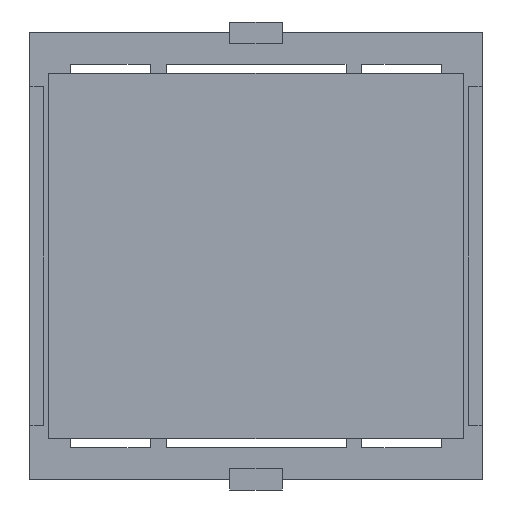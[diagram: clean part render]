
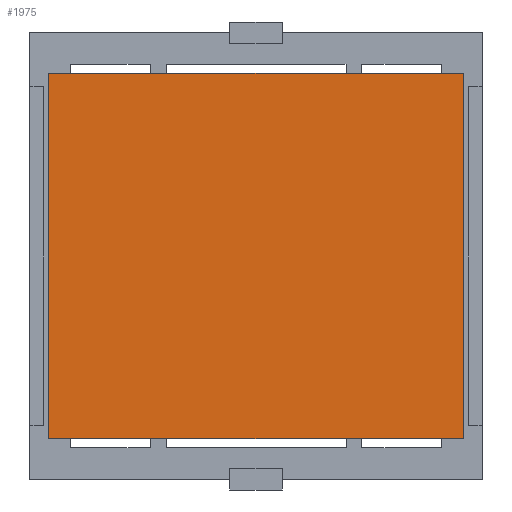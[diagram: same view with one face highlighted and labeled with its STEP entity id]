
A CAD part, front view. The second image highlights one B-rep face of the part: STEP entity #1975.
In plain terms, the highlighted planar face has unit normal (0, -1, 0).
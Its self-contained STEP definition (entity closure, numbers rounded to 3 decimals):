
#39 = AXIS2_PLACEMENT_3D ( 'NONE', #3274, #491, #4379 ) ;
#328 = CARTESIAN_POINT ( 'NONE',  ( 19.558, -0.127, 17.272 ) ) ;
#339 = LINE ( 'NONE', #7021, #5433 ) ;
#442 = CARTESIAN_POINT ( 'NONE',  ( -19.558, -0.127, -17.272 ) ) ;
#491 = DIRECTION ( 'NONE',  ( 0., 1., 0. ) ) ;
#948 = FACE_OUTER_BOUND ( 'NONE', #1478, .T. ) ;
#1203 = VERTEX_POINT ( 'NONE', #6198 ) ;
#1411 = EDGE_CURVE ( 'NONE', #1203, #5221, #2211, .T. ) ;
#1478 = EDGE_LOOP ( 'NONE', ( #6577, #5752, #1497, #3608 ) ) ;
#1497 = ORIENTED_EDGE ( 'NONE', *, *, #6118, .F. ) ;
#1669 = CARTESIAN_POINT ( 'NONE',  ( -19.558, -0.127, 17.272 ) ) ;
#1904 = LINE ( 'NONE', #2530, #5124 ) ;
#1975 = ADVANCED_FACE ( 'NONE', ( #948 ), #4280, .F. ) ;
#2119 = CARTESIAN_POINT ( 'NONE',  ( 19.558, -0.127, -17.272 ) ) ;
#2211 = LINE ( 'NONE', #1669, #6630 ) ;
#2530 = CARTESIAN_POINT ( 'NONE',  ( -19.558, -0.127, -17.272 ) ) ;
#2628 = VERTEX_POINT ( 'NONE', #2119 ) ;
#3095 = VECTOR ( 'NONE', #4367, 1000. ) ;
#3102 = EDGE_CURVE ( 'NONE', #2628, #4700, #3226, .T. ) ;
#3226 = LINE ( 'NONE', #442, #3095 ) ;
#3274 = CARTESIAN_POINT ( 'NONE',  ( -19.558, -0.127, 17.272 ) ) ;
#3608 = ORIENTED_EDGE ( 'NONE', *, *, #1411, .F. ) ;
#4280 = PLANE ( 'NONE',  #39 ) ;
#4367 = DIRECTION ( 'NONE',  ( -1., 0., 0. ) ) ;
#4379 = DIRECTION ( 'NONE',  ( 0., 0., 1. ) ) ;
#4700 = VERTEX_POINT ( 'NONE', #5279 ) ;
#4759 = DIRECTION ( 'NONE',  ( 0., 0., 1. ) ) ;
#5124 = VECTOR ( 'NONE', #4759, 1000. ) ;
#5166 = EDGE_CURVE ( 'NONE', #4700, #1203, #1904, .T. ) ;
#5221 = VERTEX_POINT ( 'NONE', #328 ) ;
#5279 = CARTESIAN_POINT ( 'NONE',  ( -19.558, -0.127, -17.272 ) ) ;
#5433 = VECTOR ( 'NONE', #5923, 1000. ) ;
#5752 = ORIENTED_EDGE ( 'NONE', *, *, #3102, .F. ) ;
#5923 = DIRECTION ( 'NONE',  ( 0., 0., -1. ) ) ;
#6118 = EDGE_CURVE ( 'NONE', #5221, #2628, #339, .T. ) ;
#6198 = CARTESIAN_POINT ( 'NONE',  ( -19.558, -0.127, 17.272 ) ) ;
#6577 = ORIENTED_EDGE ( 'NONE', *, *, #5166, .F. ) ;
#6630 = VECTOR ( 'NONE', #6923, 1000. ) ;
#6923 = DIRECTION ( 'NONE',  ( 1., 0., 0. ) ) ;
#7021 = CARTESIAN_POINT ( 'NONE',  ( 19.558, -0.127, -17.272 ) ) ;
